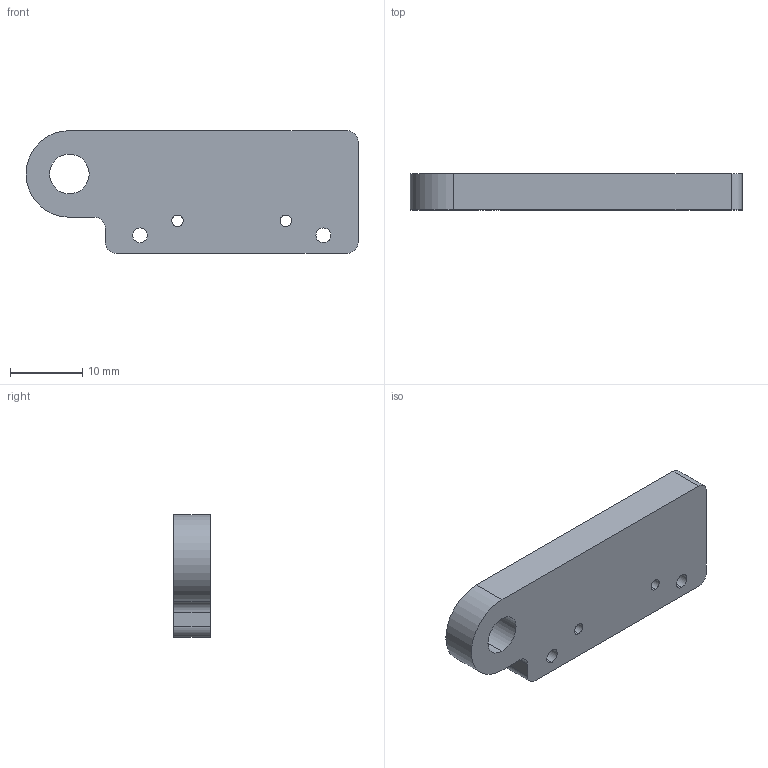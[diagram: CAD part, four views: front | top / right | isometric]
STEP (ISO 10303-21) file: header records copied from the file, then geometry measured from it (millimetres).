
FILE_DESCRIPTION (( 'STEP AP214' ), '1' );
FILE_NAME ('SMBJ1-5.STEP', '2019-11-06T07:10:55', ( '微软用户' ), ( '微软中国' ), 'SwSTEP 2.0', 'SolidWorks 2016', '' );
FILE_SCHEMA (( 'AUTOMOTIVE_DESIGN' ));
Length unit declared in the file: millimetre
Products named in the file (1): SMBJ1-5
Bounding box: 46 x 5 x 17 mm (x, y, z)
Volume: 3381 mm3; surface area: 2144.8 mm2
Topology: 1 solids, 1 shells, 22 faces, 60 edges, 40 vertices
Faces by surface type: cylinder 15, plane 7
Entity records: 856 total; most frequent: DIRECTION 136, CARTESIAN_POINT 123, ORIENTED_EDGE 120, EDGE_CURVE 60, AXIS2_PLACEMENT_3D 53, VERTEX_POINT 40, EDGE_LOOP 32, CIRCLE 30
